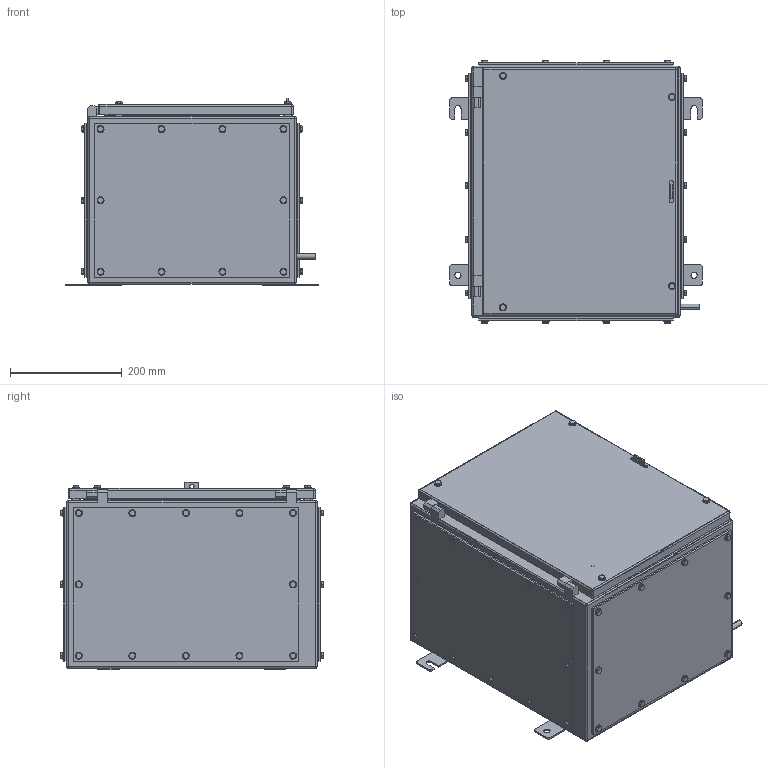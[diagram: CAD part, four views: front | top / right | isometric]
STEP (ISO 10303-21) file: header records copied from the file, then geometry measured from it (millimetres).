
FILE_DESCRIPTION (( 'STEP AP203' ), '1' );
FILE_NAME ('SX3_300_4GP.STEP', '2021-05-20T12:33:11', ( '' ), ( '' ), 'SwSTEP 2.0', 'SolidWorks 2020', '' );
FILE_SCHEMA (( 'CONFIG_CONTROL_DESIGN' ));
Length unit declared in the file: millimetre
Products named in the file (10): SX3_300_4GP Body; SX3-300 Base Gasket; plain washer form b_bsi_Bright washer BS 4320 - M6 (Form B); SX3_300_4GP; SX3 Door; hex screw gradeab_bsi_BS EN 24017 - M6 x 20-N; SX3-300 side Gland plate; SX3-300 Base Gland plate; hex screw gradeab_bsi_BS EN 24017 - M6 x 16-N; SX3-300 side Gasket
Assembly tree (106 placements, depth 2):
  SX3_300_4GP
    SX3_300_4GP Body
    SX3 Door
    SX3-300 Base Gasket  x2
    SX3-300 side Gasket  x2
    SX3-300 Base Gland plate  x2
    SX3-300 side Gland plate  x2
    plain washer form b_bsi_Bright washer BS 4320 - M6 (Form B)  x48
    hex screw gradeab_bsi_BS EN 24017 - M6 x 16-N  x44
    hex screw gradeab_bsi_BS EN 24017 - M6 x 20-N  x4
Bounding box: 452 x 468.8 x 336 mm (x, y, z)
Volume: 2842363.9 mm3; surface area: 2333225.4 mm2
Topology: 106 solids, 106 shells, 2578 faces, 5602 edges, 3368 vertices
Faces by surface type: plane 1126, cylinder 916, cone 392, torus 104, sphere 40
Entity records: 28030 total; most frequent: DIRECTION 4708, CARTESIAN_POINT 4151, ORIENTED_EDGE 3780, AXIS2_PLACEMENT_3D 1897, EDGE_CURVE 1890, VERTEX_POINT 1196, EDGE_LOOP 1078, CIRCLE 952
